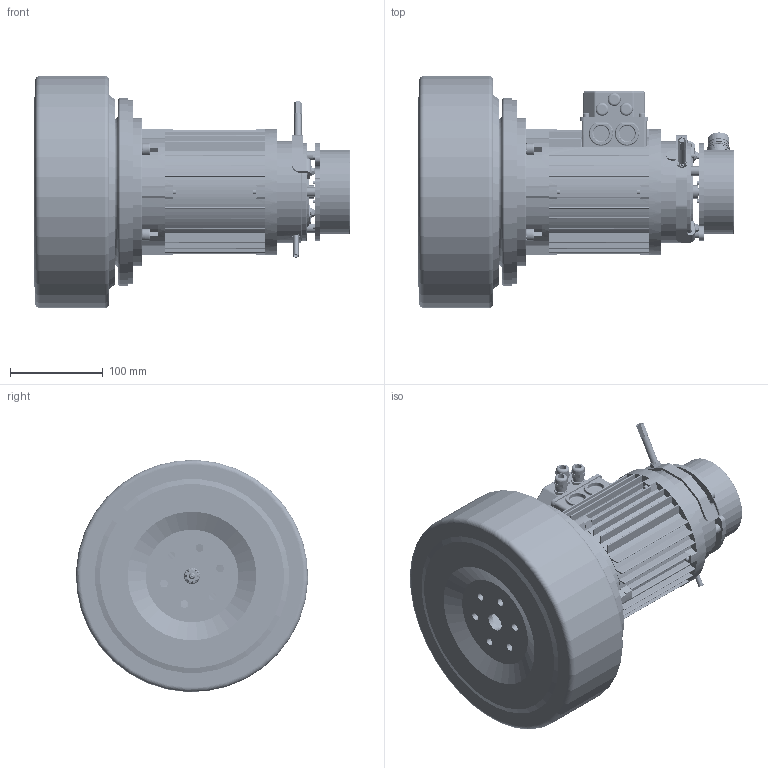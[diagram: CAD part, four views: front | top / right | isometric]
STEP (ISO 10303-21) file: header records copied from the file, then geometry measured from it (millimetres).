
FILE_DESCRIPTION(/* description */ (''),/* implementation_level */ '2;1');
FILE_NAME(/* name */ 'Z:\SITO WEB 2023\Dual Drive\MRH157\MRH157 PMAC D.250 mm\MRH157.BL.D250.stp',/* time_stamp */ '2023-09-21T16:07:49+02:00',/* author */ ('cad3'),/* organization */ (''),/* preprocessor_version */ 'ST-DEVELOPER v18.1',/* originating_system */ 'Autodesk Inventor 2022',/* authorisation */ '');
FILE_SCHEMA (('AUTOMOTIVE_DESIGN { 1 0 10303 214 3 1 1 }'));
Products named in the file (1): MRH157.BL.D250
Bounding box: 341 x 249.74 x 249.74 mm (x, y, z)
Volume: 4289307.4 mm3; surface area: 771571.4 mm2
Topology: 120 solids, 146 shells, 6678 faces, 18257 edges, 11561 vertices
Faces by surface type: plane 4649, cylinder 1182, cone 398, bspline 293, torus 150, sphere 6
Full cylindrical faces by diameter (mm): 0.9 x12, 1.7 x4, 2 x5, 2.459 x2, 2.5 x4, 2.75 x2, 2.9 x6, 3.2 x4, 3.242 x11, 4 x16, 4.3 x10, 4.5 x10, 5 x21, 5.2 x21, 5.3 x4, 5.4 x4, 5.5 x8, 6 x1, 6.647 x4, 6.917 x3, 7 x15, 7.1 x1, 7.5 x7, 7.6 x1, 7.8 x1, 8 x7, 8.376 x8, 8.4 x5, 8.5 x21, 9 x13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
Entity records: 229565 total; most frequent: CARTESIAN_POINT 51539, ORIENTED_EDGE 36644, DIRECTION 35193, EDGE_CURVE 18322, AXIS2_PLACEMENT_3D 12070, VERTEX_POINT 11788, LINE 11053, VECTOR 11053
